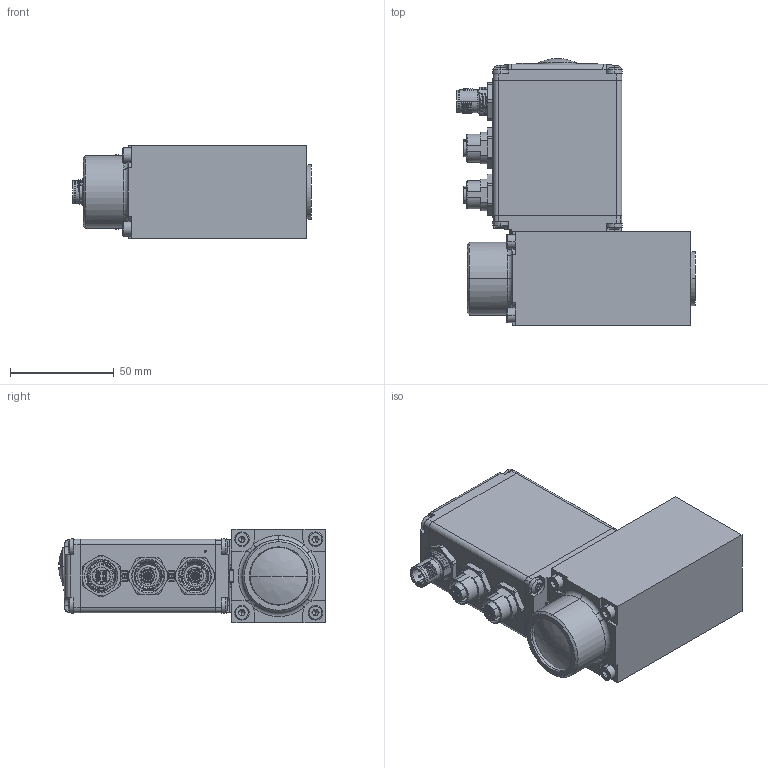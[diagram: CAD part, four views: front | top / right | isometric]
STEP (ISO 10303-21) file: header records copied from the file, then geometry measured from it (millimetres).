
FILE_DESCRIPTION (( 'STEP AP203' ), '1' );
FILE_NAME ('PI45LV-P1-24P.R..STEP', '2014-07-14T13:02:18', ( '' ), ( '' ), 'SwSTEP 2.0', 'SolidWorks 2014', '' );
FILE_SCHEMA (( 'CONFIG_CONTROL_DESIGN' ));
Length unit declared in the file: millimetre
Products named in the file (2): PI45LV-P1-24P.R.
Bounding box: 114.9 x 128.39 x 45 mm (x, y, z)
Volume: 267833 mm3; surface area: 97090 mm2
Topology: 35 solids, 35 shells, 3659 faces, 9765 edges, 6283 vertices
Faces by surface type: plane 1786, cylinder 1163, cone 294, torus 270, bspline 117, sphere 29
Entity records: 120388 total; most frequent: CARTESIAN_POINT 30048, ORIENTED_EDGE 19426, DIRECTION 18038, EDGE_CURVE 9713, VERTEX_POINT 6283, AXIS2_PLACEMENT_3D 6035, VECTOR 5968, LINE 5968
